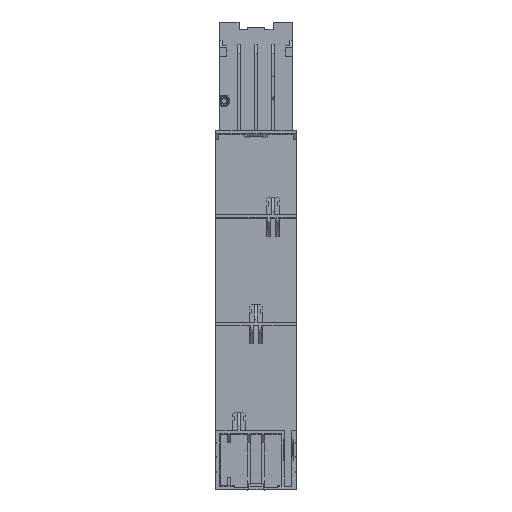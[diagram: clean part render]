
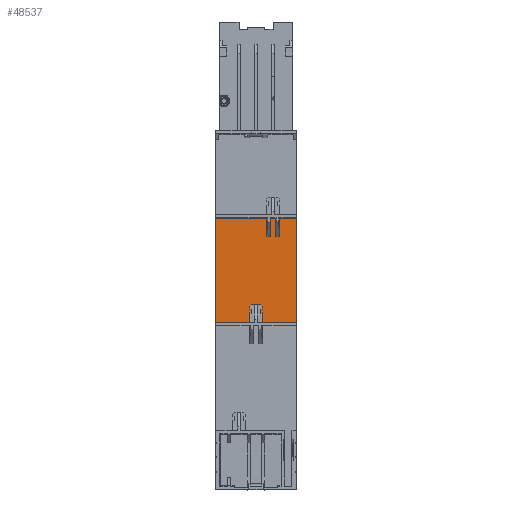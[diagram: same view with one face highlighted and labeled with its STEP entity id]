
A CAD part, front view. The second image highlights one B-rep face of the part: STEP entity #48537.
In plain terms, the highlighted planar face has unit normal (0, -1, 0).
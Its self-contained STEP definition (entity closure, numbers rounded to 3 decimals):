
#22 = VERTEX_POINT ( 'NONE', #361 ) ;
#361 = CARTESIAN_POINT ( 'NONE',  ( 6.054, -4., 151.204 ) ) ;
#1131 = LINE ( 'NONE', #14278, #8032 ) ;
#1257 = VERTEX_POINT ( 'NONE', #59155 ) ;
#1697 = VERTEX_POINT ( 'NONE', #55520 ) ;
#3683 = CARTESIAN_POINT ( 'NONE',  ( 8.046, -4., 151.204 ) ) ;
#4445 = VECTOR ( 'NONE', #61841, 1000. ) ;
#4835 = LINE ( 'NONE', #74244, #33303 ) ;
#5330 = LINE ( 'NONE', #10329, #63307 ) ;
#5939 = VECTOR ( 'NONE', #75504, 1000. ) ;
#6812 = CARTESIAN_POINT ( 'NONE',  ( 12.946, -4., 62.1 ) ) ;
#6879 = DIRECTION ( 'NONE',  ( 0., 1., 0. ) ) ;
#7085 = EDGE_CURVE ( 'NONE', #67420, #1257, #32904, .T. ) ;
#8032 = VECTOR ( 'NONE', #9882, 1000. ) ;
#8367 = ORIENTED_EDGE ( 'NONE', *, *, #61204, .T. ) ;
#9443 = CARTESIAN_POINT ( 'NONE',  ( -22.5, -4., 93. ) ) ;
#9460 = AXIS2_PLACEMENT_3D ( 'NONE', #38377, #6879, #31564 ) ;
#9542 = VERTEX_POINT ( 'NONE', #62982 ) ;
#9882 = DIRECTION ( 'NONE',  ( 0., 0., -1. ) ) ;
#10329 = CARTESIAN_POINT ( 'NONE',  ( 27.593, -4., 151.204 ) ) ;
#10687 = EDGE_CURVE ( 'NONE', #31666, #22, #79563, .T. ) ;
#12688 = EDGE_CURVE ( 'NONE', #19095, #14235, #62746, .T. ) ;
#12771 = LINE ( 'NONE', #31369, #5939 ) ;
#13238 = ORIENTED_EDGE ( 'NONE', *, *, #34121, .F. ) ;
#14235 = VERTEX_POINT ( 'NONE', #50782 ) ;
#14278 = CARTESIAN_POINT ( 'NONE',  ( 8.046, -4., 62.1 ) ) ;
#18268 = CARTESIAN_POINT ( 'NONE',  ( 10.954, -4., 141.166 ) ) ;
#18523 = DIRECTION ( 'NONE',  ( 1., 0., 0. ) ) ;
#19095 = VERTEX_POINT ( 'NONE', #3683 ) ;
#20214 = CARTESIAN_POINT ( 'NONE',  ( 22.5, -4., 151.204 ) ) ;
#21778 = DIRECTION ( 'NONE',  ( 0., 0., 1. ) ) ;
#23808 = CARTESIAN_POINT ( 'NONE',  ( 6.054, -4., 141.166 ) ) ;
#23809 = VECTOR ( 'NONE', #21778, 1000. ) ;
#23979 = LINE ( 'NONE', #27330, #55427 ) ;
#25084 = VERTEX_POINT ( 'NONE', #66144 ) ;
#25516 = DIRECTION ( 'NONE',  ( 1., 0., 0. ) ) ;
#27330 = CARTESIAN_POINT ( 'NONE',  ( -4.5, -4., 141.166 ) ) ;
#28315 = EDGE_CURVE ( 'NONE', #9542, #25084, #68364, .T. ) ;
#31369 = CARTESIAN_POINT ( 'NONE',  ( 10.954, -4., 62.1 ) ) ;
#31564 = DIRECTION ( 'NONE',  ( 0., 0., 1. ) ) ;
#31666 = VERTEX_POINT ( 'NONE', #65154 ) ;
#32180 = EDGE_CURVE ( 'NONE', #19095, #1697, #1131, .T. ) ;
#32904 = LINE ( 'NONE', #60490, #4445 ) ;
#33303 = VECTOR ( 'NONE', #18523, 1000. ) ;
#34121 = EDGE_CURVE ( 'NONE', #56525, #1697, #4835, .T. ) ;
#36835 = EDGE_CURVE ( 'NONE', #31666, #57724, #75512, .T. ) ;
#38377 = CARTESIAN_POINT ( 'NONE',  ( 31.5, -4., 93. ) ) ;
#38380 = LINE ( 'NONE', #56862, #50252 ) ;
#38960 = ORIENTED_EDGE ( 'NONE', *, *, #63146, .T. ) ;
#44019 = VECTOR ( 'NONE', #54671, 1000. ) ;
#44922 = ORIENTED_EDGE ( 'NONE', *, *, #36835, .T. ) ;
#45514 = ORIENTED_EDGE ( 'NONE', *, *, #80460, .T. ) ;
#46759 = CARTESIAN_POINT ( 'NONE',  ( 6.054, -4., 62.1 ) ) ;
#47978 = FACE_OUTER_BOUND ( 'NONE', #66047, .T. ) ;
#48537 = ADVANCED_FACE ( 'NONE', ( #47978 ), #56576, .F. ) ;
#50252 = VECTOR ( 'NONE', #25516, 1000. ) ;
#50782 = CARTESIAN_POINT ( 'NONE',  ( 10.954, -4., 151.204 ) ) ;
#50979 = DIRECTION ( 'NONE',  ( 0., 0., -1. ) ) ;
#51648 = VECTOR ( 'NONE', #50979, 1000. ) ;
#51902 = ORIENTED_EDGE ( 'NONE', *, *, #7085, .F. ) ;
#54512 = DIRECTION ( 'NONE',  ( 1., 0., 0. ) ) ;
#54671 = DIRECTION ( 'NONE',  ( 1., 0., 0. ) ) ;
#55427 = VECTOR ( 'NONE', #58432, 1000. ) ;
#55520 = CARTESIAN_POINT ( 'NONE',  ( 8.046, -4., 141.166 ) ) ;
#55546 = CARTESIAN_POINT ( 'NONE',  ( -22.5, -4., 93. ) ) ;
#56009 = ORIENTED_EDGE ( 'NONE', *, *, #74486, .F. ) ;
#56525 = VERTEX_POINT ( 'NONE', #23808 ) ;
#56576 = PLANE ( 'NONE',  #9460 ) ;
#56862 = CARTESIAN_POINT ( 'NONE',  ( 25.5, -4., 93. ) ) ;
#57372 = CARTESIAN_POINT ( 'NONE',  ( -2.593, -4., 151.204 ) ) ;
#57724 = VERTEX_POINT ( 'NONE', #9443 ) ;
#58432 = DIRECTION ( 'NONE',  ( 1., 0., 0. ) ) ;
#59155 = CARTESIAN_POINT ( 'NONE',  ( 22.5, -4., 93. ) ) ;
#60236 = LINE ( 'NONE', #46759, #23809 ) ;
#60490 = CARTESIAN_POINT ( 'NONE',  ( 22.5, -4., -0.2 ) ) ;
#61204 = EDGE_CURVE ( 'NONE', #56525, #22, #60236, .T. ) ;
#61841 = DIRECTION ( 'NONE',  ( 0., 0., -1. ) ) ;
#62284 = VERTEX_POINT ( 'NONE', #18268 ) ;
#62746 = LINE ( 'NONE', #79553, #44019 ) ;
#62970 = VECTOR ( 'NONE', #63408, 1000. ) ;
#62982 = CARTESIAN_POINT ( 'NONE',  ( 12.946, -4., 151.204 ) ) ;
#63146 = EDGE_CURVE ( 'NONE', #62284, #14235, #12771, .T. ) ;
#63307 = VECTOR ( 'NONE', #54512, 1000. ) ;
#63408 = DIRECTION ( 'NONE',  ( 1., 0., 0. ) ) ;
#65154 = CARTESIAN_POINT ( 'NONE',  ( -22.5, -4., 151.204 ) ) ;
#65307 = ORIENTED_EDGE ( 'NONE', *, *, #10687, .F. ) ;
#66047 = EDGE_LOOP ( 'NONE', ( #45514, #51902, #56009, #78495, #70227, #38960, #77573, #73263, #13238, #8367, #65307, #44922 ) ) ;
#66144 = CARTESIAN_POINT ( 'NONE',  ( 12.946, -4., 141.166 ) ) ;
#67420 = VERTEX_POINT ( 'NONE', #20214 ) ;
#68364 = LINE ( 'NONE', #6812, #51648 ) ;
#70227 = ORIENTED_EDGE ( 'NONE', *, *, #74388, .F. ) ;
#73263 = ORIENTED_EDGE ( 'NONE', *, *, #32180, .T. ) ;
#73560 = VECTOR ( 'NONE', #74941, 1000. ) ;
#74244 = CARTESIAN_POINT ( 'NONE',  ( -4.5, -4., 141.166 ) ) ;
#74388 = EDGE_CURVE ( 'NONE', #62284, #25084, #23979, .T. ) ;
#74486 = EDGE_CURVE ( 'NONE', #9542, #67420, #5330, .T. ) ;
#74941 = DIRECTION ( 'NONE',  ( 0., 0., -1. ) ) ;
#75504 = DIRECTION ( 'NONE',  ( 0., 0., 1. ) ) ;
#75512 = LINE ( 'NONE', #55546, #73560 ) ;
#77573 = ORIENTED_EDGE ( 'NONE', *, *, #12688, .F. ) ;
#78495 = ORIENTED_EDGE ( 'NONE', *, *, #28315, .T. ) ;
#79553 = CARTESIAN_POINT ( 'NONE',  ( -11.593, -4., 151.204 ) ) ;
#79563 = LINE ( 'NONE', #57372, #62970 ) ;
#80460 = EDGE_CURVE ( 'NONE', #57724, #1257, #38380, .T. ) ;
